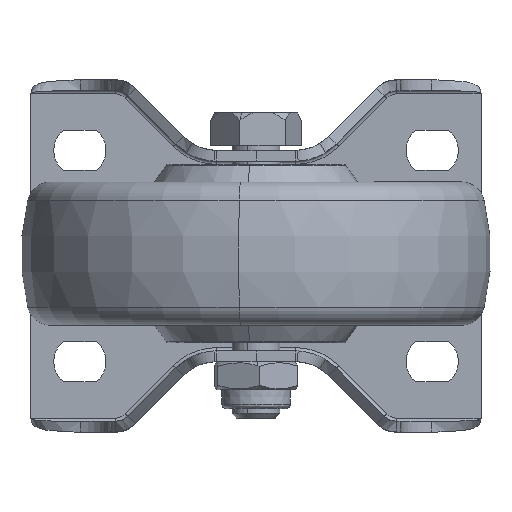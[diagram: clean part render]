
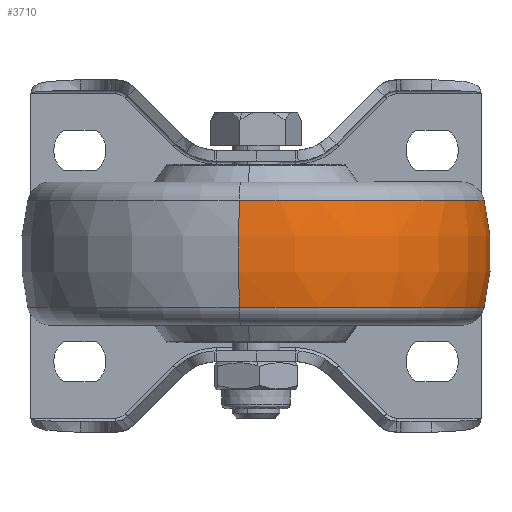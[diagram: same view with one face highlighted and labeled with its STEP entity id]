
A CAD part, front view. The second image highlights one B-rep face of the part: STEP entity #3710.
In plain terms, the highlighted toroidal (fillet/blend) face has major radius 0.01 mm and minor radius 50 mm.
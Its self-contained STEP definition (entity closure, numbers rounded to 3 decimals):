
#45 = VERTEX_POINT ( 'NONE', #2805 ) ;
#165 = FACE_OUTER_BOUND ( 'NONE', #1745, .T. ) ;
#537 = DIRECTION ( 'NONE',  ( 0., 0., -1. ) ) ;
#802 = DIRECTION ( 'NONE',  ( 0., 0., 1. ) ) ;
#1008 = DIRECTION ( 'NONE',  ( 0., 0., 1. ) ) ;
#1745 = EDGE_LOOP ( 'NONE', ( #8173, #5322, #3146, #4060 ) ) ;
#1772 = DIRECTION ( 'NONE',  ( -1., 0., 0. ) ) ;
#1845 = TOROIDAL_SURFACE ( 'NONE', #6193, 0.01, 50. ) ;
#2089 = VERTEX_POINT ( 'NONE', #8320 ) ;
#2109 = DIRECTION ( 'NONE',  ( 0., -1., 0. ) ) ;
#2382 = AXIS2_PLACEMENT_3D ( 'NONE', #9269, #2109, #537 ) ;
#2676 = AXIS2_PLACEMENT_3D ( 'NONE', #9977, #3384, #9043 ) ;
#2805 = CARTESIAN_POINT ( 'NONE',  ( -11.389, 0., -48.696 ) ) ;
#3019 = EDGE_CURVE ( 'NONE', #9718, #45, #3262, .T. ) ;
#3146 = ORIENTED_EDGE ( 'NONE', *, *, #9650, .F. ) ;
#3262 = CIRCLE ( 'NONE', #8457, 50. ) ;
#3384 = DIRECTION ( 'NONE',  ( -1., 0., 0. ) ) ;
#3710 = ADVANCED_FACE ( 'NONE', ( #165 ), #1845, .T. ) ;
#4003 = CIRCLE ( 'NONE', #2676, 48.696 ) ;
#4060 = ORIENTED_EDGE ( 'NONE', *, *, #9452, .F. ) ;
#4176 = DIRECTION ( 'NONE',  ( 0., 0., 1. ) ) ;
#4713 = CIRCLE ( 'NONE', #9713, 48.696 ) ;
#4860 = CARTESIAN_POINT ( 'NONE',  ( -11.389, 0., 48.696 ) ) ;
#5126 = VERTEX_POINT ( 'NONE', #4860 ) ;
#5322 = ORIENTED_EDGE ( 'NONE', *, *, #3019, .T. ) ;
#6193 = AXIS2_PLACEMENT_3D ( 'NONE', #7130, #8759, #802 ) ;
#7130 = CARTESIAN_POINT ( 'NONE',  ( 0., 0., 0. ) ) ;
#7811 = EDGE_CURVE ( 'NONE', #2089, #9718, #4003, .T. ) ;
#8164 = CARTESIAN_POINT ( 'NONE',  ( -11.389, 0., 0. ) ) ;
#8173 = ORIENTED_EDGE ( 'NONE', *, *, #7811, .T. ) ;
#8320 = CARTESIAN_POINT ( 'NONE',  ( 11.389, 0., 48.696 ) ) ;
#8457 = AXIS2_PLACEMENT_3D ( 'NONE', #9019, #9850, #1008 ) ;
#8759 = DIRECTION ( 'NONE',  ( -1., 0., 0. ) ) ;
#9019 = CARTESIAN_POINT ( 'NONE',  ( 0., 0., -0.01 ) ) ;
#9043 = DIRECTION ( 'NONE',  ( 0., 0., 1. ) ) ;
#9269 = CARTESIAN_POINT ( 'NONE',  ( 0., 0., 0.01 ) ) ;
#9411 = CARTESIAN_POINT ( 'NONE',  ( 11.389, 0., -48.696 ) ) ;
#9452 = EDGE_CURVE ( 'NONE', #2089, #5126, #10057, .T. ) ;
#9650 = EDGE_CURVE ( 'NONE', #5126, #45, #4713, .T. ) ;
#9713 = AXIS2_PLACEMENT_3D ( 'NONE', #8164, #1772, #4176 ) ;
#9718 = VERTEX_POINT ( 'NONE', #9411 ) ;
#9850 = DIRECTION ( 'NONE',  ( 0., 1., 0. ) ) ;
#9977 = CARTESIAN_POINT ( 'NONE',  ( 11.389, 0., 0. ) ) ;
#10057 = CIRCLE ( 'NONE', #2382, 50. ) ;
